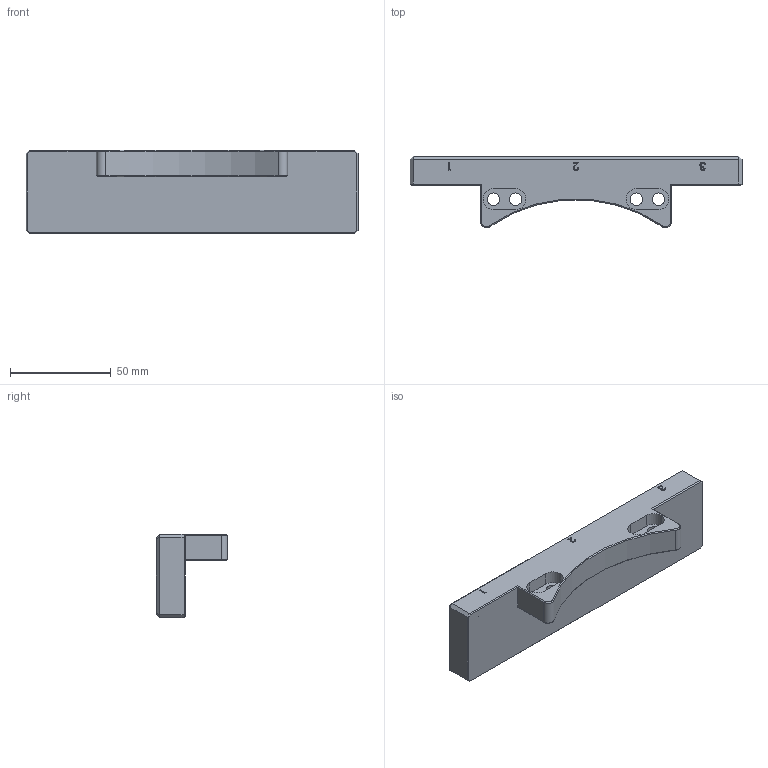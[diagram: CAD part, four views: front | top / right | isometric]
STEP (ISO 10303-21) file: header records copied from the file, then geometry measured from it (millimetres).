
FILE_DESCRIPTION (( 'STEP AP203' ), '1' );
FILE_NAME ('QCA-SG巠饜ん郪璃.STEP', '2023-11-10T00:25:27', ( '' ), ( '' ), 'SwSTEP 2.0', 'SolidWorks 2018', '' );
FILE_SCHEMA (( 'CONFIG_CONTROL_DESIGN' ));
Length unit declared in the file: millimetre
Products named in the file (1): QCA-SG巠饜ん郪璃
Bounding box: 165 x 35.48 x 41.3 mm (x, y, z)
Volume: 107291.6 mm3; surface area: 24440.3 mm2
Topology: 1 solids, 1 shells, 183 faces, 446 edges, 256 vertices
Faces by surface type: plane 58, cone 54, cylinder 53, bspline 18
Entity records: 6289 total; most frequent: CARTESIAN_POINT 2108, DIRECTION 838, ORIENTED_EDGE 836, EDGE_CURVE 418, AXIS2_PLACEMENT_3D 290, VECTOR 258, LINE 258, VERTEX_POINT 256
